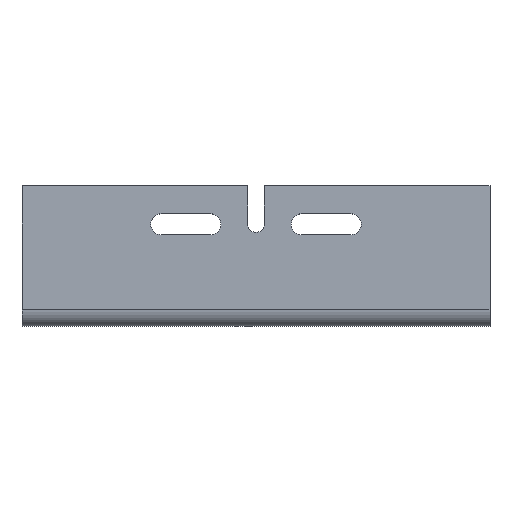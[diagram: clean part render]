
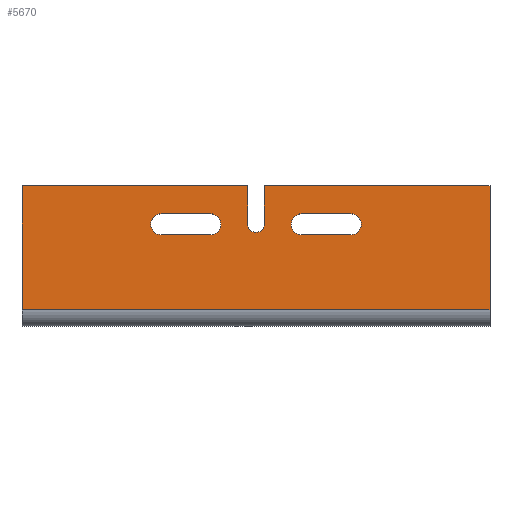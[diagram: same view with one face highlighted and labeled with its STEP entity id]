
A CAD part, front view. The second image highlights one B-rep face of the part: STEP entity #5670.
In plain terms, the highlighted planar face has unit normal (0, -1, 0.018).
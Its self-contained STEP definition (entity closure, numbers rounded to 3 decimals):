
#1550=CARTESIAN_POINT('',(103.5,-23.145,22.441));
#1560=VERTEX_POINT('',#1550);
#1590=CARTESIAN_POINT('',(100.,-23.145,22.441));
#1600=DIRECTION('',(0.,-1.,
0.017));
#1610=DIRECTION('',(0.,0.017,
1.));
#1620=AXIS2_PLACEMENT_3D('',#1590,#1600,#1610);
#1630=CIRCLE('',#1620,3.5);
#1640=CARTESIAN_POINT('',(96.5,-23.145,
22.441));
#1650=VERTEX_POINT('',#1640);
#1660=EDGE_CURVE('',#1650,#1560,#1630,.T.);
#1840=CARTESIAN_POINT('',(96.5,-23.54,
-0.207));
#1850=DIRECTION('',(0.,-0.017,
-1.));
#1860=VECTOR('',#1850,1.);
#1870=LINE('',#1840,#1860);
#1880=CARTESIAN_POINT('',(96.5,-22.857,
38.939));
#1890=VERTEX_POINT('',#1880);
#1900=EDGE_CURVE('',#1890,#1650,#1870,.T.);
#2080=CARTESIAN_POINT('',(0.,-22.857,
38.939));
#2090=DIRECTION('',(1.,0.,0.));
#2100=VECTOR('',#2090,1.);
#2110=LINE('',#2080,#2100);
#2120=CARTESIAN_POINT('',(0.,-22.857,
38.939));
#2130=VERTEX_POINT('',#2120);
#2140=EDGE_CURVE('',#2130,#1890,#2110,.T.);
#2750=CARTESIAN_POINT('',(0.,-23.76,
-12.802));
#2760=DIRECTION('',(0.,-0.017,
-1.));
#2770=VECTOR('',#2760,1.);
#2780=LINE('',#2750,#2770);
#2790=CARTESIAN_POINT('',(0.,-23.782,
-14.05));
#2800=VERTEX_POINT('',#2790);
#2810=EDGE_CURVE('',#2130,#2800,#2780,.T.);
#3270=CARTESIAN_POINT('',(103.5,-22.857,38.939));
#3280=VERTEX_POINT('',#3270);
#3310=CARTESIAN_POINT('',(103.5,-23.54,-0.207));
#3320=DIRECTION('',(0.,0.017,
1.));
#3330=VECTOR('',#3320,1.);
#3340=LINE('',#3310,#3330);
#3350=EDGE_CURVE('',#1560,#3280,#3340,.T.);
#3760=CARTESIAN_POINT('',(200.,-22.857,38.939));
#3770=VERTEX_POINT('',#3760);
#3800=CARTESIAN_POINT('',(0.,-22.857,
38.939));
#3810=DIRECTION('',(1.,0.,0.));
#3820=VECTOR('',#3810,1.);
#3830=LINE('',#3800,#3820);
#3840=EDGE_CURVE('',#3280,#3770,#3830,.T.);
#4620=CARTESIAN_POINT('',(200.,-23.782,-14.05));
#4630=VERTEX_POINT('',#4620);
#4660=CARTESIAN_POINT('',(200.,-23.76,-12.802));
#4670=DIRECTION('',(0.,-0.017,
-1.));
#4680=VECTOR('',#4670,1.);
#4690=LINE('',#4660,#4680);
#4700=EDGE_CURVE('',#3770,#4630,#4690,.T.);
#4750=CARTESIAN_POINT('',(200.,-23.293,13.942));
#4760=DIRECTION('',(0.,-1.,
0.017));
#4770=DIRECTION('',(0.,0.017,
1.));
#4780=AXIS2_PLACEMENT_3D('',#4750,#4760,#4770);
#4790=PLANE('',#4780);
#4800=CARTESIAN_POINT('',(200.,-23.782,-14.05));
#4810=DIRECTION('',(-1.,0.,0.));
#4820=VECTOR('',#4810,1.);
#4830=LINE('',#4800,#4820);
#4840=EDGE_CURVE('',#4630,#2800,#4830,.T.);
#4850=ORIENTED_EDGE('',*,*,#4840,.F.);
#4860=ORIENTED_EDGE('',*,*,#2810,.T.);
#4870=ORIENTED_EDGE('',*,*,#2140,.F.);
#4880=ORIENTED_EDGE('',*,*,#1900,.F.);
#4890=ORIENTED_EDGE('',*,*,#1660,.F.);
#4900=ORIENTED_EDGE('',*,*,#3350,.F.);
#4910=ORIENTED_EDGE('',*,*,#3840,.F.);
#4920=ORIENTED_EDGE('',*,*,#4700,.F.);
#4930=EDGE_LOOP('',(#4920,#4910,#4900,#4890,#4880,#4870,#4860,#4850));
#4940=FACE_OUTER_BOUND('',#4930,.T.);
#4950=CARTESIAN_POINT('',(80.5,-23.145,
22.441));
#4960=DIRECTION('',(0.,-1.,
0.017));
#4970=DIRECTION('',(0.,0.017,
1.));
#4980=AXIS2_PLACEMENT_3D('',#4950,#4960,#4970);
#4990=CIRCLE('',#4980,4.5);
#5000=CARTESIAN_POINT('',(80.5,-23.223,
17.942));
#5010=VERTEX_POINT('',#5000);
#5020=CARTESIAN_POINT('',(80.5,-23.066,
26.94));
#5030=VERTEX_POINT('',#5020);
#5040=EDGE_CURVE('',#5010,#5030,#4990,.T.);
#5050=ORIENTED_EDGE('',*,*,#5040,.F.);
#5060=CARTESIAN_POINT('',(0.,-23.066,
26.94));
#5070=DIRECTION('',(-1.,0.,0.));
#5080=VECTOR('',#5070,1.);
#5090=LINE('',#5060,#5080);
#5100=CARTESIAN_POINT('',(59.5,-23.066,
26.94));
#5110=VERTEX_POINT('',#5100);
#5120=EDGE_CURVE('',#5030,#5110,#5090,.T.);
#5130=ORIENTED_EDGE('',*,*,#5120,.F.);
#5140=CARTESIAN_POINT('',(59.5,-23.145,
22.441));
#5150=DIRECTION('',(0.,-1.,
0.017));
#5160=DIRECTION('',(0.,0.017,
1.));
#5170=AXIS2_PLACEMENT_3D('',#5140,#5150,#5160);
#5180=CIRCLE('',#5170,4.5);
#5190=CARTESIAN_POINT('',(59.5,-23.223,
17.942));
#5200=VERTEX_POINT('',#5190);
#5210=EDGE_CURVE('',#5110,#5200,#5180,.T.);
#5220=ORIENTED_EDGE('',*,*,#5210,.F.);
#5230=CARTESIAN_POINT('',(0.,-23.223,
17.942));
#5240=DIRECTION('',(1.,0.,0.));
#5250=VECTOR('',#5240,1.);
#5260=LINE('',#5230,#5250);
#5270=EDGE_CURVE('',#5200,#5010,#5260,.T.);
#5280=ORIENTED_EDGE('',*,*,#5270,.F.);
#5290=EDGE_LOOP('',(#5280,#5220,#5130,#5050));
#5300=FACE_BOUND('',#5290,.T.);
#5310=CARTESIAN_POINT('',(140.5,-23.145,22.441));
#5320=DIRECTION('',(0.,-1.,
0.017));
#5330=DIRECTION('',(0.,0.017,
1.));
#5340=AXIS2_PLACEMENT_3D('',#5310,#5320,#5330);
#5350=CIRCLE('',#5340,4.5);
#5360=CARTESIAN_POINT('',(140.5,-23.223,17.942));
#5370=VERTEX_POINT('',#5360);
#5380=CARTESIAN_POINT('',(140.5,-23.066,26.94));
#5390=VERTEX_POINT('',#5380);
#5400=EDGE_CURVE('',#5370,#5390,#5350,.T.);
#5410=ORIENTED_EDGE('',*,*,#5400,.F.);
#5420=CARTESIAN_POINT('',(0.,-23.066,
26.94));
#5430=DIRECTION('',(-1.,0.,0.));
#5440=VECTOR('',#5430,1.);
#5450=LINE('',#5420,#5440);
#5460=CARTESIAN_POINT('',(119.5,-23.066,26.94));
#5470=VERTEX_POINT('',#5460);
#5480=EDGE_CURVE('',#5390,#5470,#5450,.T.);
#5490=ORIENTED_EDGE('',*,*,#5480,.F.);
#5500=CARTESIAN_POINT('',(119.5,-23.145,22.441));
#5510=DIRECTION('',(0.,-1.,
0.017));
#5520=DIRECTION('',(0.,0.017,
1.));
#5530=AXIS2_PLACEMENT_3D('',#5500,#5510,#5520);
#5540=CIRCLE('',#5530,4.5);
#5550=CARTESIAN_POINT('',(119.5,-23.223,17.942));
#5560=VERTEX_POINT('',#5550);
#5570=EDGE_CURVE('',#5470,#5560,#5540,.T.);
#5580=ORIENTED_EDGE('',*,*,#5570,.F.);
#5590=CARTESIAN_POINT('',(0.,-23.223,
17.942));
#5600=DIRECTION('',(1.,0.,0.));
#5610=VECTOR('',#5600,1.);
#5620=LINE('',#5590,#5610);
#5630=EDGE_CURVE('',#5560,#5370,#5620,.T.);
#5640=ORIENTED_EDGE('',*,*,#5630,.F.);
#5650=EDGE_LOOP('',(#5640,#5580,#5490,#5410));
#5660=FACE_BOUND('',#5650,.T.);
#5670=ADVANCED_FACE('',(#4940,#5300,#5660),#4790,.T.);
